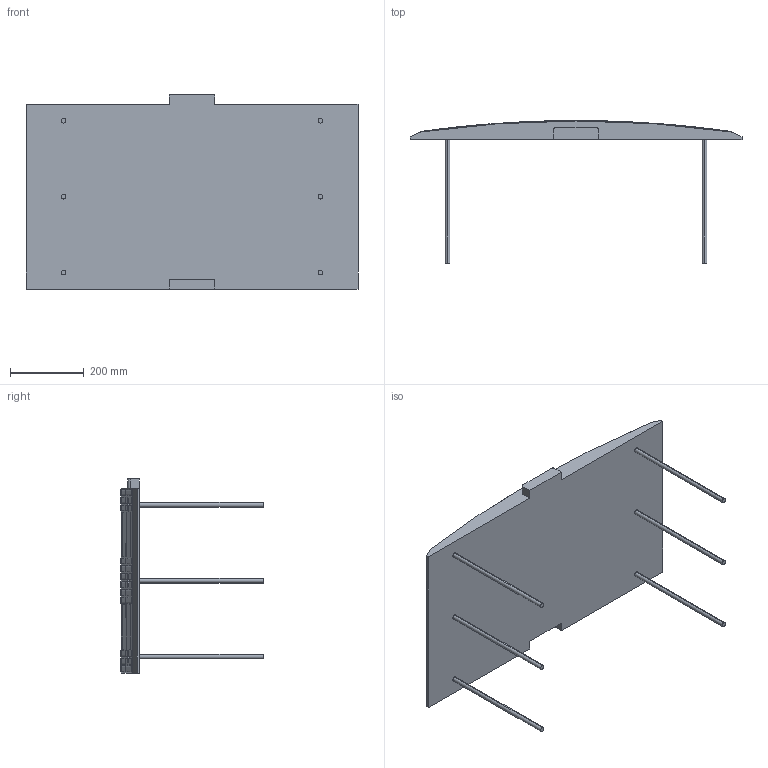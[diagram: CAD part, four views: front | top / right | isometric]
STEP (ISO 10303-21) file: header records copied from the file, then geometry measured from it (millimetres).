
FILE_DESCRIPTION (( 'STEP AP214' ), '1' );
FILE_NAME ('Safety Rider Center.STEP', '2024-06-10T21:30:26', ( '' ), ( '' ), 'SwSTEP 2.0', 'SolidWorks 2013', '' );
FILE_SCHEMA (( 'AUTOMOTIVE_DESIGN' ));
Length unit declared in the file: inch
Products named in the file (1): Safety Rider Center
Bounding box: 899.16 x 386.35 x 525.78 mm (x, y, z)
Volume: 17443663.9 mm3; surface area: 1490819.1 mm2
Topology: 49 solids, 49 shells, 535 faces, 1206 edges, 804 vertices
Faces by surface type: plane 233, cylinder 170, bspline 132
Entity records: 30115 total; most frequent: CARTESIAN_POINT 17919, ORIENTED_EDGE 2412, DIRECTION 2116, EDGE_CURVE 1206, AXIS2_PLACEMENT_3D 818, VERTEX_POINT 804, EDGE_LOOP 582, ADVANCED_FACE 535
